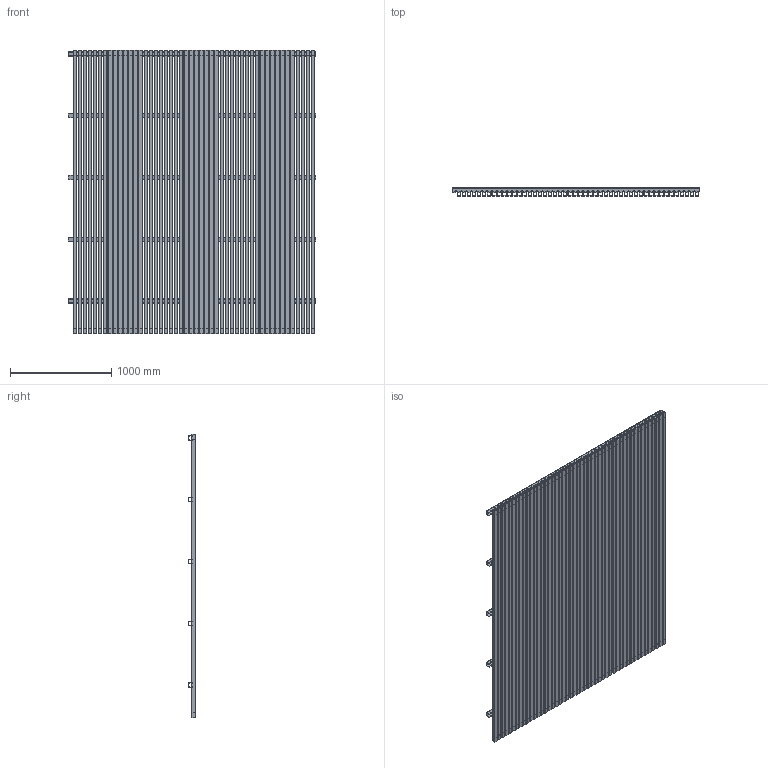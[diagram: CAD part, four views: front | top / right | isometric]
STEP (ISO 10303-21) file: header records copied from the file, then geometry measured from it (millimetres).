
FILE_DESCRIPTION(/* description */ (''),/* implementation_level */ '2;1');
FILE_NAME(/* name */ 'SBC_FIXED_PITCH_ASSEM.stp',/* time_stamp */ '2024-03-01T14:27:58-06:00',/* author */ ('AutoCAD Machine'),/* organization */ (''),/* preprocessor_version */ 'ST-DEVELOPER v20',/* originating_system */ 'Autodesk Inventor 2024',/* authorisation */ '');
FILE_SCHEMA (('AUTOMOTIVE_DESIGN { 1 0 10303 214 3 1 1 }'));
Length unit declared in the file: inch
Products named in the file (3): SBC_FIXED_PITCH_ASSEM; SBC baffle; baffle_carrier
Assembly tree (101 placements, depth 2):
  SBC_FIXED_PITCH_ASSEM
    SBC baffle  x96
    baffle_carrier  x5
Bounding box: 2438.4 x 74.59 x 2794 mm (x, y, z)
Volume: 19885559.7 mm3; surface area: 65142778.5 mm2
Topology: 101 solids, 101 shells, 8578 faces, 25128 edges, 16752 vertices
Faces by surface type: plane 7214, cylinder 1364
Full cylindrical faces by diameter (mm): 1.587 x980
Entity records: 47801 total; most frequent: CARTESIAN_POINT 8412, ORIENTED_EDGE 8304, DIRECTION 7536, EDGE_CURVE 4152, LINE 3752, VECTOR 3752, VERTEX_POINT 2768, AXIS2_PLACEMENT_3D 1892
